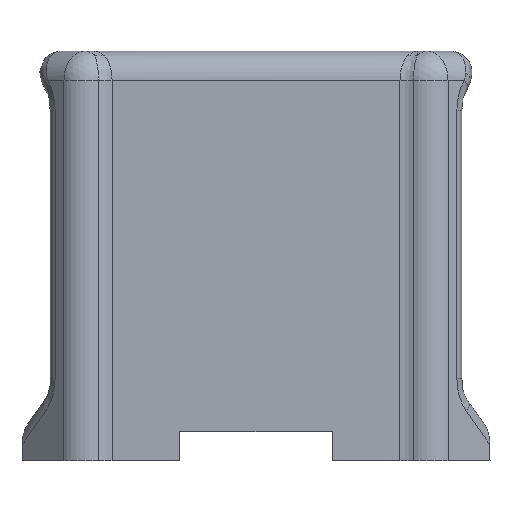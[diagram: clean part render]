
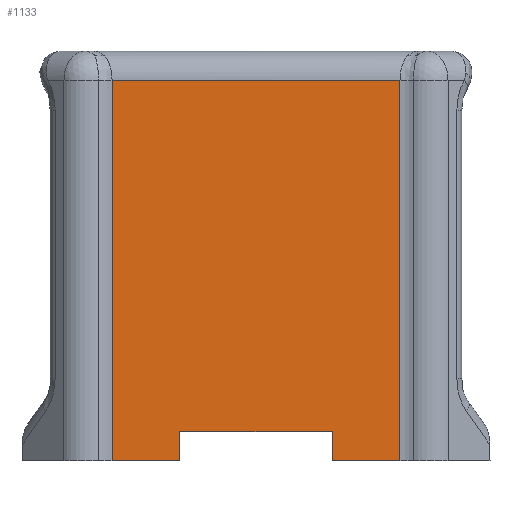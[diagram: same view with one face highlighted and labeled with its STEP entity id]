
A CAD part, front view. The second image highlights one B-rep face of the part: STEP entity #1133.
In plain terms, the highlighted planar face has unit normal (0, -1, 0).
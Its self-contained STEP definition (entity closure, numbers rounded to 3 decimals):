
#47=DIRECTION('',(-1.,0.,0.));
#48=VECTOR('',#47,11.609);
#49=CARTESIAN_POINT('',(-13.,-22.,-2.5));
#50=LINE('',#49,#48);
#59=DIRECTION('',(-1.,0.,0.));
#60=VECTOR('',#59,11.609);
#61=CARTESIAN_POINT('',(24.609,-22.,-2.5));
#62=LINE('',#61,#60);
#233=DIRECTION('',(0.,0.,-1.));
#234=VECTOR('',#233,65.);
#235=CARTESIAN_POINT('',(-24.609,-22.,62.5));
#236=LINE('',#235,#234);
#237=DIRECTION('',(1.,0.,0.));
#238=VECTOR('',#237,49.218);
#239=CARTESIAN_POINT('',(-24.609,-22.,62.5));
#240=LINE('',#239,#238);
#241=DIRECTION('',(0.,0.,1.));
#242=VECTOR('',#241,65.);
#243=CARTESIAN_POINT('',(24.609,-22.,-2.5));
#244=LINE('',#243,#242);
#245=DIRECTION('',(0.,0.,1.));
#246=VECTOR('',#245,5.);
#247=CARTESIAN_POINT('',(13.,-22.,-2.5));
#248=LINE('',#247,#246);
#249=DIRECTION('',(-1.,0.,0.));
#250=VECTOR('',#249,26.);
#251=CARTESIAN_POINT('',(13.,-22.,2.5));
#252=LINE('',#251,#250);
#253=DIRECTION('',(0.,0.,1.));
#254=VECTOR('',#253,5.);
#255=CARTESIAN_POINT('',(-13.,-22.,-2.5));
#256=LINE('',#255,#254);
#731=CARTESIAN_POINT('',(13.,-22.,-2.5));
#732=VERTEX_POINT('',#731);
#733=CARTESIAN_POINT('',(-13.,-22.,-2.5));
#734=VERTEX_POINT('',#733);
#735=CARTESIAN_POINT('',(13.,-22.,2.5));
#736=CARTESIAN_POINT('',(-13.,-22.,2.5));
#737=VERTEX_POINT('',#735);
#738=VERTEX_POINT('',#736);
#759=CARTESIAN_POINT('',(-24.609,-22.,62.5));
#760=CARTESIAN_POINT('',(-24.609,-22.,-2.5));
#761=VERTEX_POINT('',#759);
#762=VERTEX_POINT('',#760);
#766=CARTESIAN_POINT('',(24.609,-22.,-2.5));
#767=CARTESIAN_POINT('',(24.609,-22.,62.5));
#768=VERTEX_POINT('',#766);
#769=VERTEX_POINT('',#767);
#1116=CARTESIAN_POINT('',(26.067,-22.,-2.5));
#1117=DIRECTION('',(0.,-1.,0.));
#1118=DIRECTION('',(-1.,0.,0.));
#1119=AXIS2_PLACEMENT_3D('',#1116,#1117,#1118);
#1120=PLANE('',#1119);
#1121=ORIENTED_EDGE('',*,*,#900,.F.);
#1123=ORIENTED_EDGE('',*,*,#1122,.T.);
#1124=ORIENTED_EDGE('',*,*,#1107,.F.);
#1125=ORIENTED_EDGE('',*,*,#863,.T.);
#1127=ORIENTED_EDGE('',*,*,#1126,.T.);
#1128=ORIENTED_EDGE('',*,*,#813,.T.);
#1129=ORIENTED_EDGE('',*,*,#834,.F.);
#1130=ORIENTED_EDGE('',*,*,#849,.T.);
#1131=EDGE_LOOP('',(#1121,#1123,#1124,#1125,#1127,#1128,#1129,#1130));
#1132=FACE_OUTER_BOUND('',#1131,.F.);
#1133=ADVANCED_FACE('',(#1132),#1120,.T.);
#813=EDGE_CURVE('',#737,#738,#252,.T.);
#834=EDGE_CURVE('',#734,#738,#256,.T.);
#849=EDGE_CURVE('',#734,#762,#50,.T.);
#863=EDGE_CURVE('',#768,#732,#62,.T.);
#900=EDGE_CURVE('',#761,#762,#236,.T.);
#1107=EDGE_CURVE('',#768,#769,#244,.T.);
#1122=EDGE_CURVE('',#761,#769,#240,.T.);
#1126=EDGE_CURVE('',#732,#737,#248,.T.);
